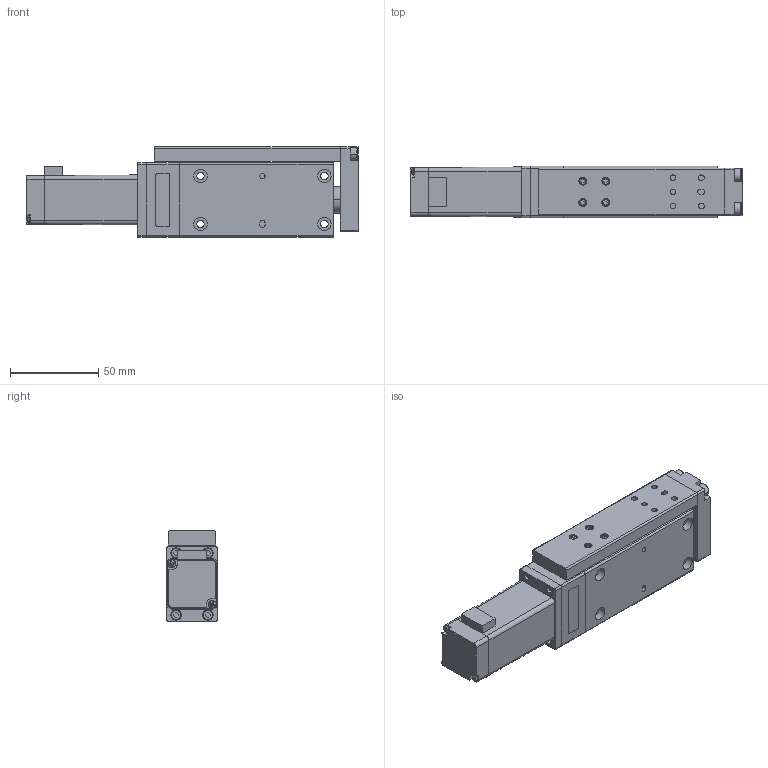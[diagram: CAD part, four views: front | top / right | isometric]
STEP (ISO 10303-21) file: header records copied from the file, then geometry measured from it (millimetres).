
FILE_DESCRIPTION (( 'STEP AP203' ), '1' );
FILE_NAME ('SSA16（ST=50）外形尺寸.STEP', '2024-11-13T09:11:29', ( '微软用户' ), ( '微软中国' ), 'SwSTEP 2.0', 'SolidWorks 2018', '' );
FILE_SCHEMA (( 'CONFIG_CONTROL_DESIGN' ));
Length unit declared in the file: millimetre
Products named in the file (13): 复件 SVS-24SSA16-P006  安装板^SSA16（ST=50）外形尺寸; 复件 SVS-24SSA16-P007-02  滑台板（ST=50）^SSA16（ST=50）外形尺寸; 复件 SVS-24SSA16-B002  RAIL（润扬：RN7-长度）ST=50^SSA16（ST=50）外形尺寸; 复件 SVS-24SSA16-B002  BLOCK（润扬：RN7H）^SSA16（ST=50）外形尺寸; 复件 (2) 28闭环步进电机-客用3D^SSA16（ST=50）外形尺寸; 复件 SVS-24SSA16-P001-02  FRAME（ST=50）^SSA16（ST=50）外形尺寸; 复件 内六角杯头螺钉M4-10^SSA16（ST=50）外形尺寸; 复件 SVS-24SSA16-P002  空心圆杆（ST=50）^SSA16（ST=50）外形尺寸; 复件 内六角杯头螺钉M3-8^SSA16（ST=50）外形尺寸; 复件 SVS-24SSA16-P004  MOTOR PLATE^SSA16（ST=50）外形尺寸; 复件 内六角杯头螺钉M2-6^SSA16（ST=50）外形尺寸; 复件 SVS-24SSA16-P005  电机座^SSA16（ST=50）外形尺寸; SSA16（ST=50）外形尺寸
Assembly tree (27 placements, depth 2):
  SSA16（ST=50）外形尺寸
    复件 SVS-24SSA16-P001-02  FRAME（ST=50）^SSA16（ST=50）外形尺寸
    复件 SVS-24SSA16-P002  空心圆杆（ST=50）^SSA16（ST=50）外形尺寸
    复件 SVS-24SSA16-P004  MOTOR PLATE^SSA16（ST=50）外形尺寸
    复件 SVS-24SSA16-P005  电机座^SSA16（ST=50）外形尺寸
    复件 SVS-24SSA16-P006  安装板^SSA16（ST=50）外形尺寸
    复件 SVS-24SSA16-P007-02  滑台板（ST=50）^SSA16（ST=50）外形尺寸
    复件 SVS-24SSA16-B002  RAIL（润扬：RN7-长度）ST=50^SSA16（ST=50）外形尺寸
    复件 SVS-24SSA16-B002  BLOCK（润扬：RN7H）^SSA16（ST=50）外形尺寸
    复件 (2) 28闭环步进电机-客用3D^SSA16（ST=50）外形尺寸
    复件 内六角杯头螺钉M4-10^SSA16（ST=50）外形尺寸  x3
    复件 内六角杯头螺钉M3-8^SSA16（ST=50）外形尺寸  x4
    复件 内六角杯头螺钉M2-6^SSA16（ST=50）外形尺寸  x11
Bounding box: 187.6 x 29 x 51 mm (x, y, z)
Volume: 214060.5 mm3; surface area: 57642.4 mm2
Topology: 29 solids, 29 shells, 898 faces, 2109 edges, 1320 vertices
Faces by surface type: plane 386, cylinder 327, cone 103, torus 74, bspline 8
Entity records: 19870 total; most frequent: CARTESIAN_POINT 3525, DIRECTION 3232, ORIENTED_EDGE 2866, EDGE_CURVE 1433, AXIS2_PLACEMENT_3D 1226, VERTEX_POINT 930, VECTOR 780, LINE 780
